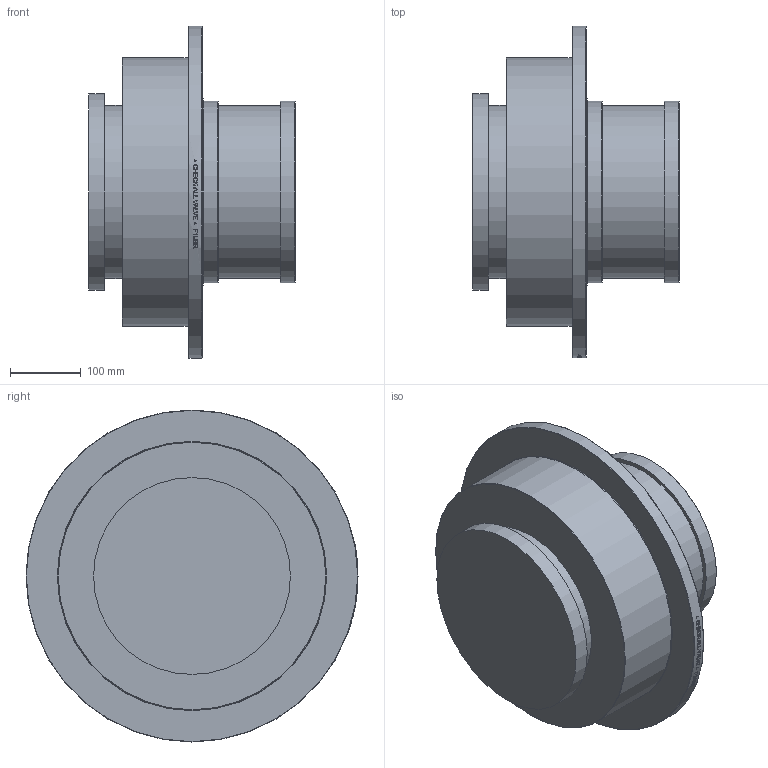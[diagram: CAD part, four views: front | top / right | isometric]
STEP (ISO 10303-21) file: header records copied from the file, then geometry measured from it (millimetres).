
FILE_DESCRIPTION( ( 'Unknown' ), '1' );
FILE_NAME( 'Y:/ENGR/3D Solid Edge Models/F1/F1 STEP/F1UBR.stp', 'Unknown', ( 'Unknown' ), ( 'Unknown' ), 'PSStep 14.0', 'Unknown', ' ' );
FILE_SCHEMA( ( 'AUTOMOTIVE_DESIGN { 1 0 10303 214 1 1 1 1 }' ) );
Length unit declared in the file: millimetre
Products named in the file (1): 1
Bounding box: 292.58 x 469.9 x 469.9 mm (x, y, z)
Volume: 22923619 mm3; surface area: 663114.1 mm2
Topology: 1 solids, 1 shells, 230 faces, 573 edges, 380 vertices
Faces by surface type: plane 135, bspline 53, cylinder 35, torus 4, cone 3
Full cylindrical faces by diameter (mm): 245.11 x2, 256.667 x2, 278.638 x1, 379.552 x1, 469.9 x1
Entity records: 13070 total; most frequent: CARTESIAN_POINT 6976, ORIENTED_EDGE 1118, EDGE_CURVE 559, B_SPLINE_CURVE_WITH_KNOTS 537, DIRECTION 400, VERTEX_POINT 380, EDGE_LOOP 279, FACE_OUTER_BOUND 241
